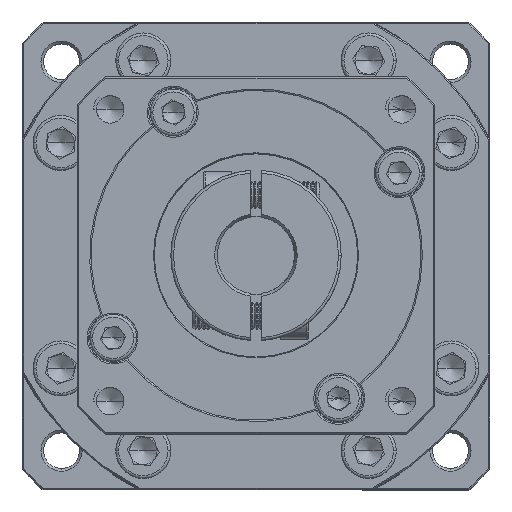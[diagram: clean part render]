
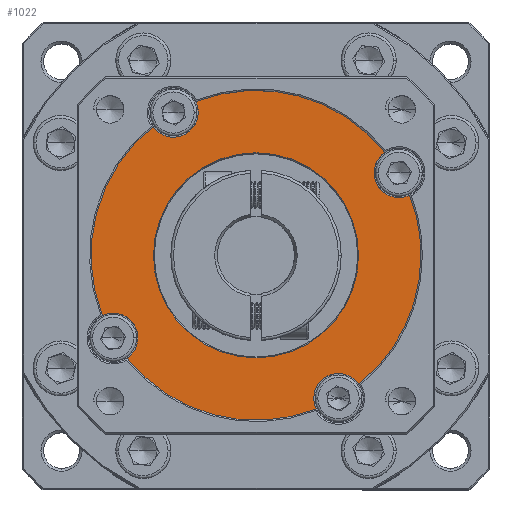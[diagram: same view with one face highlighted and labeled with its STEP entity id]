
A CAD part, top view. The second image highlights one B-rep face of the part: STEP entity #1022.
In plain terms, the highlighted planar face has unit normal (0, 0, 1).
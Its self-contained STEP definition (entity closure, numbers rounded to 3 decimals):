
#1022 = ADVANCED_FACE ( 'NONE', ( #55394, #72531 ), #27386, .T. ) ;
#1411 = CARTESIAN_POINT ( 'NONE',  ( -90.146, 48.184, 10.67 ) ) ;
#2303 = AXIS2_PLACEMENT_3D ( 'NONE', #64741, #23373, #4583 ) ;
#2665 = EDGE_CURVE ( 'NONE', #61828, #53528, #53748, .T. ) ;
#3765 = EDGE_CURVE ( 'NONE', #78499, #128310, #32903, .T. ) ;
#4583 = DIRECTION ( 'NONE',  ( 1., 0., 0. ) ) ;
#4651 = EDGE_LOOP ( 'NONE', ( #24316, #58549 ) ) ;
#5763 = CIRCLE ( 'NONE', #83729, 4.5 ) ;
#5873 = ORIENTED_EDGE ( 'NONE', *, *, #8786, .T. ) ;
#5987 = CIRCLE ( 'NONE', #82327, 30. ) ;
#8490 = DIRECTION ( 'NONE',  ( 0., 0., 1. ) ) ;
#8592 = ORIENTED_EDGE ( 'NONE', *, *, #103486, .T. ) ;
#8786 = EDGE_CURVE ( 'NONE', #110042, #19559, #105932, .T. ) ;
#10978 = CARTESIAN_POINT ( 'NONE',  ( -36.233, 74.129, 10.67 ) ) ;
#12607 = EDGE_CURVE ( 'NONE', #38848, #118745, #56629, .T. ) ;
#13120 = ORIENTED_EDGE ( 'NONE', *, *, #3765, .T. ) ;
#14839 = DIRECTION ( 'NONE',  ( 1., 0., 0. ) ) ;
#16115 = CIRCLE ( 'NONE', #67030, 4.5 ) ;
#16199 = CARTESIAN_POINT ( 'NONE',  ( -62.214, 59.129, 10.67 ) ) ;
#16679 = AXIS2_PLACEMENT_3D ( 'NONE', #46170, #45731, #14839 ) ;
#18160 = ORIENTED_EDGE ( 'NONE', *, *, #2665, .F. ) ;
#18619 = VERTEX_POINT ( 'NONE', #97764 ) ;
#18955 = DIRECTION ( 'NONE',  ( 1., 0., 0. ) ) ;
#19559 = VERTEX_POINT ( 'NONE', #1411 ) ;
#20347 = CIRCLE ( 'NONE', #115664, 4.5 ) ;
#20635 = DIRECTION ( 'NONE',  ( 1., 0., 0. ) ) ;
#21437 = EDGE_CURVE ( 'NONE', #128310, #87709, #5987, .T. ) ;
#23373 = DIRECTION ( 'NONE',  ( 0., 0., 1. ) ) ;
#24316 = ORIENTED_EDGE ( 'NONE', *, *, #50153, .T. ) ;
#24891 = CIRCLE ( 'NONE', #57744, 4.5 ) ;
#25093 = DIRECTION ( 'NONE',  ( 1., 0., 0. ) ) ;
#27386 = PLANE ( 'NONE',  #70549 ) ;
#27613 = CARTESIAN_POINT ( 'NONE',  ( -62.214, 59.129, 10.67 ) ) ;
#27764 = ORIENTED_EDGE ( 'NONE', *, *, #77897, .F. ) ;
#28099 = ORIENTED_EDGE ( 'NONE', *, *, #12607, .F. ) ;
#28113 = ORIENTED_EDGE ( 'NONE', *, *, #93905, .F. ) ;
#32903 = CIRCLE ( 'NONE', #54346, 30. ) ;
#33600 = CARTESIAN_POINT ( 'NONE',  ( -34.282, 70.074, 10.67 ) ) ;
#34487 = CARTESIAN_POINT ( 'NONE',  ( -43.497, 35.684, 10.67 ) ) ;
#35121 = DIRECTION ( 'NONE',  ( 0., 0., 1. ) ) ;
#35576 = AXIS2_PLACEMENT_3D ( 'NONE', #16199, #47126, #77648 ) ;
#37584 = EDGE_CURVE ( 'NONE', #64071, #53489, #16115, .T. ) ;
#38848 = VERTEX_POINT ( 'NONE', #115022 ) ;
#39149 = CARTESIAN_POINT ( 'NONE',  ( -62.214, 59.129, 10.67 ) ) ;
#40005 = DIRECTION ( 'NONE',  ( 0., 0., 1. ) ) ;
#40741 = AXIS2_PLACEMENT_3D ( 'NONE', #114911, #65341, #115774 ) ;
#40748 = CARTESIAN_POINT ( 'NONE',  ( -88.195, 44.129, 10.67 ) ) ;
#41057 = CIRCLE ( 'NONE', #2303, 4.5 ) ;
#41121 = ORIENTED_EDGE ( 'NONE', *, *, #60340, .F. ) ;
#42903 = VERTEX_POINT ( 'NONE', #91941 ) ;
#42968 = ORIENTED_EDGE ( 'NONE', *, *, #89347, .F. ) ;
#45732 = VERTEX_POINT ( 'NONE', #76820 ) ;
#45731 = DIRECTION ( 'NONE',  ( 0., 0., 1. ) ) ;
#46170 = CARTESIAN_POINT ( 'NONE',  ( -47.214, 33.148, 10.67 ) ) ;
#47022 = CARTESIAN_POINT ( 'NONE',  ( -62.214, 59.129, 10.67 ) ) ;
#47126 = DIRECTION ( 'NONE',  ( 0., 0., 1. ) ) ;
#47426 = DIRECTION ( 'NONE',  ( 1., 0., 0. ) ) ;
#50153 = EDGE_CURVE ( 'NONE', #45732, #116641, #89303, .T. ) ;
#51519 = EDGE_CURVE ( 'NONE', #118745, #19559, #24891, .T. ) ;
#52323 = DIRECTION ( 'NONE',  ( 1., 0., 0. ) ) ;
#53489 = VERTEX_POINT ( 'NONE', #81029 ) ;
#53528 = VERTEX_POINT ( 'NONE', #101486 ) ;
#53748 = CIRCLE ( 'NONE', #87610, 4.5 ) ;
#54346 = AXIS2_PLACEMENT_3D ( 'NONE', #74776, #35121, #25093 ) ;
#55307 = DIRECTION ( 'NONE',  ( 1., 0., 0. ) ) ;
#55394 = FACE_BOUND ( 'NONE', #4651, .T. ) ;
#56629 = CIRCLE ( 'NONE', #125702, 4.5 ) ;
#57071 = DIRECTION ( 'NONE',  ( 1., 0., 0. ) ) ;
#57581 = CIRCLE ( 'NONE', #16679, 4.5 ) ;
#57744 = AXIS2_PLACEMENT_3D ( 'NONE', #75077, #95122, #126426 ) ;
#58549 = ORIENTED_EDGE ( 'NONE', *, *, #67061, .T. ) ;
#60340 = EDGE_CURVE ( 'NONE', #53489, #87709, #20347, .T. ) ;
#60376 = DIRECTION ( 'NONE',  ( 1., 0., 0. ) ) ;
#60471 = CARTESIAN_POINT ( 'NONE',  ( -72.714, 85.109, 10.67 ) ) ;
#60573 = CIRCLE ( 'NONE', #89033, 18.644 ) ;
#61712 = EDGE_CURVE ( 'NONE', #38848, #42903, #83894, .T. ) ;
#61828 = VERTEX_POINT ( 'NONE', #60471 ) ;
#64071 = VERTEX_POINT ( 'NONE', #83107 ) ;
#64741 = CARTESIAN_POINT ( 'NONE',  ( -77.214, 85.109, 10.67 ) ) ;
#65164 = CARTESIAN_POINT ( 'NONE',  ( -80.858, 59.129, 10.67 ) ) ;
#65341 = DIRECTION ( 'NONE',  ( 0., 0., 1. ) ) ;
#66184 = CARTESIAN_POINT ( 'NONE',  ( -62.214, 59.129, 10.67 ) ) ;
#66428 = DIRECTION ( 'NONE',  ( 1., 0., 0. ) ) ;
#67030 = AXIS2_PLACEMENT_3D ( 'NONE', #10978, #71508, #52323 ) ;
#67061 = EDGE_CURVE ( 'NONE', #116641, #45732, #60573, .T. ) ;
#68364 = DIRECTION ( 'NONE',  ( 1., 0., 0. ) ) ;
#68851 = CIRCLE ( 'NONE', #35576, 30. ) ;
#69554 = DIRECTION ( 'NONE',  ( 0., 0., 1. ) ) ;
#70549 = AXIS2_PLACEMENT_3D ( 'NONE', #66184, #126659, #47426 ) ;
#71508 = DIRECTION ( 'NONE',  ( 0., 0., 1. ) ) ;
#72531 = FACE_OUTER_BOUND ( 'NONE', #93246, .T. ) ;
#74057 = CARTESIAN_POINT ( 'NONE',  ( -36.233, 74.129, 10.67 ) ) ;
#74776 = CARTESIAN_POINT ( 'NONE',  ( -62.214, 59.129, 10.67 ) ) ;
#75077 = CARTESIAN_POINT ( 'NONE',  ( -88.195, 44.129, 10.67 ) ) ;
#76820 = CARTESIAN_POINT ( 'NONE',  ( -43.57, 59.129, 10.67 ) ) ;
#77323 = ORIENTED_EDGE ( 'NONE', *, *, #51519, .F. ) ;
#77648 = DIRECTION ( 'NONE',  ( 1., 0., 0. ) ) ;
#77897 = EDGE_CURVE ( 'NONE', #110042, #61828, #41057, .T. ) ;
#78499 = VERTEX_POINT ( 'NONE', #34487 ) ;
#79095 = ORIENTED_EDGE ( 'NONE', *, *, #21437, .T. ) ;
#80315 = ORIENTED_EDGE ( 'NONE', *, *, #37584, .F. ) ;
#81029 = CARTESIAN_POINT ( 'NONE',  ( -40.733, 74.129, 10.67 ) ) ;
#82327 = AXIS2_PLACEMENT_3D ( 'NONE', #39149, #40005, #68364 ) ;
#83107 = CARTESIAN_POINT ( 'NONE',  ( -38.769, 77.846, 10.67 ) ) ;
#83729 = AXIS2_PLACEMENT_3D ( 'NONE', #108760, #98769, #128759 ) ;
#83894 = CIRCLE ( 'NONE', #40741, 30. ) ;
#85410 = DIRECTION ( 'NONE',  ( 0., 0., 1. ) ) ;
#87610 = AXIS2_PLACEMENT_3D ( 'NONE', #123356, #99932, #20635 ) ;
#87709 = VERTEX_POINT ( 'NONE', #33600 ) ;
#87808 = CARTESIAN_POINT ( 'NONE',  ( -80.932, 82.574, 10.67 ) ) ;
#89033 = AXIS2_PLACEMENT_3D ( 'NONE', #47022, #116662, #57071 ) ;
#89303 = CIRCLE ( 'NONE', #110511, 18.644 ) ;
#89347 = EDGE_CURVE ( 'NONE', #78499, #18619, #5763, .T. ) ;
#91941 = CARTESIAN_POINT ( 'NONE',  ( -51.269, 31.197, 10.67 ) ) ;
#93246 = EDGE_LOOP ( 'NONE', ( #28099, #123070, #28113, #42968, #13120, #79095, #41121, #80315, #8592, #18160, #27764, #5873, #77323 ) ) ;
#93905 = EDGE_CURVE ( 'NONE', #18619, #42903, #57581, .T. ) ;
#95122 = DIRECTION ( 'NONE',  ( 0., 0., 1. ) ) ;
#97764 = CARTESIAN_POINT ( 'NONE',  ( -51.714, 33.148, 10.67 ) ) ;
#97852 = CARTESIAN_POINT ( 'NONE',  ( -62.214, 59.129, 10.67 ) ) ;
#98283 = DIRECTION ( 'NONE',  ( 0., 0., -1. ) ) ;
#98769 = DIRECTION ( 'NONE',  ( 0., 0., 1. ) ) ;
#99932 = DIRECTION ( 'NONE',  ( 0., 0., 1. ) ) ;
#101486 = CARTESIAN_POINT ( 'NONE',  ( -73.159, 87.061, 10.67 ) ) ;
#102612 = CARTESIAN_POINT ( 'NONE',  ( -32.214, 59.129, 10.67 ) ) ;
#103486 = EDGE_CURVE ( 'NONE', #64071, #53528, #68851, .T. ) ;
#105932 = CIRCLE ( 'NONE', #123348, 30. ) ;
#108760 = CARTESIAN_POINT ( 'NONE',  ( -47.214, 33.148, 10.67 ) ) ;
#110042 = VERTEX_POINT ( 'NONE', #87808 ) ;
#110511 = AXIS2_PLACEMENT_3D ( 'NONE', #97852, #98283, #18955 ) ;
#114911 = CARTESIAN_POINT ( 'NONE',  ( -62.214, 59.129, 10.67 ) ) ;
#115022 = CARTESIAN_POINT ( 'NONE',  ( -85.659, 40.411, 10.67 ) ) ;
#115664 = AXIS2_PLACEMENT_3D ( 'NONE', #74057, #85410, #55307 ) ;
#115774 = DIRECTION ( 'NONE',  ( 1., 0., 0. ) ) ;
#116641 = VERTEX_POINT ( 'NONE', #65164 ) ;
#116662 = DIRECTION ( 'NONE',  ( 0., 0., -1. ) ) ;
#118745 = VERTEX_POINT ( 'NONE', #125948 ) ;
#123070 = ORIENTED_EDGE ( 'NONE', *, *, #61712, .T. ) ;
#123348 = AXIS2_PLACEMENT_3D ( 'NONE', #27613, #8490, #66428 ) ;
#123356 = CARTESIAN_POINT ( 'NONE',  ( -77.214, 85.109, 10.67 ) ) ;
#125702 = AXIS2_PLACEMENT_3D ( 'NONE', #40748, #69554, #60376 ) ;
#125948 = CARTESIAN_POINT ( 'NONE',  ( -83.695, 44.129, 10.67 ) ) ;
#126426 = DIRECTION ( 'NONE',  ( 1., 0., 0. ) ) ;
#126659 = DIRECTION ( 'NONE',  ( 0., 0., 1. ) ) ;
#128310 = VERTEX_POINT ( 'NONE', #102612 ) ;
#128759 = DIRECTION ( 'NONE',  ( 1., 0., 0. ) ) ;
